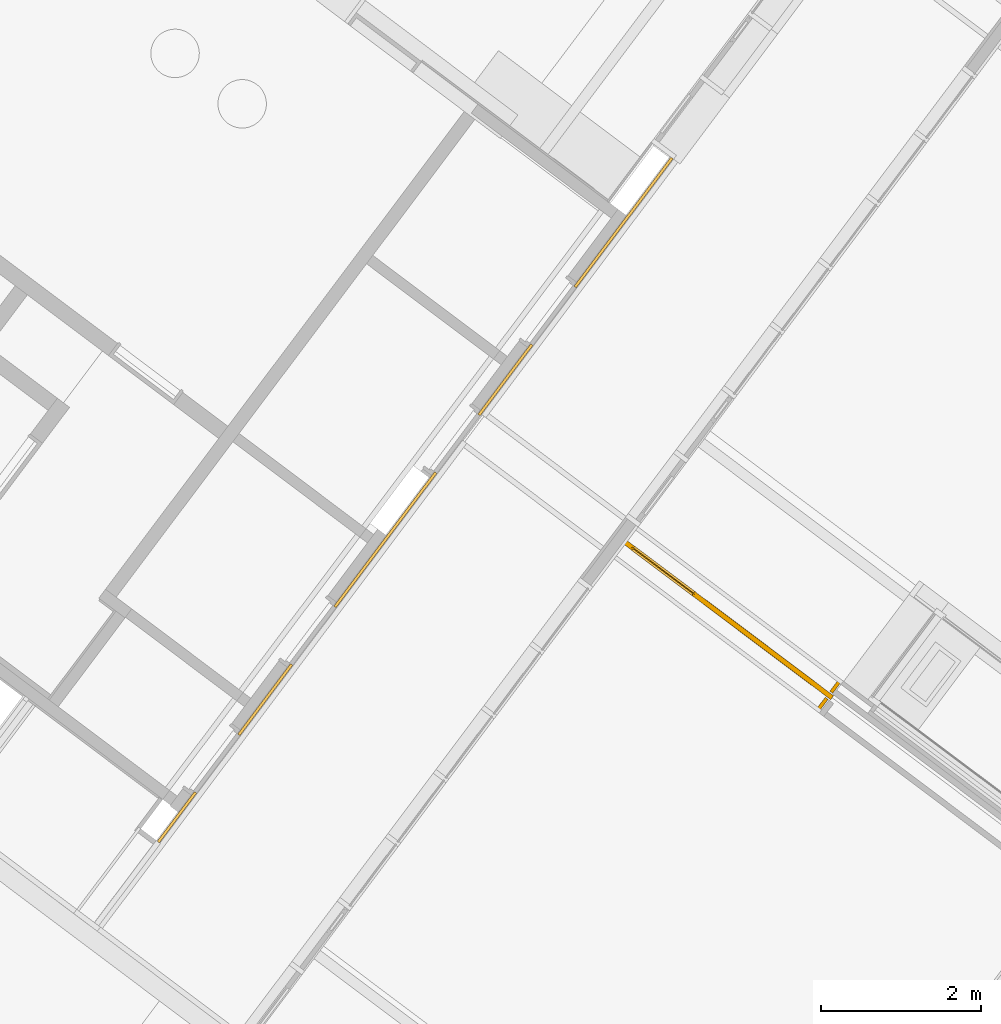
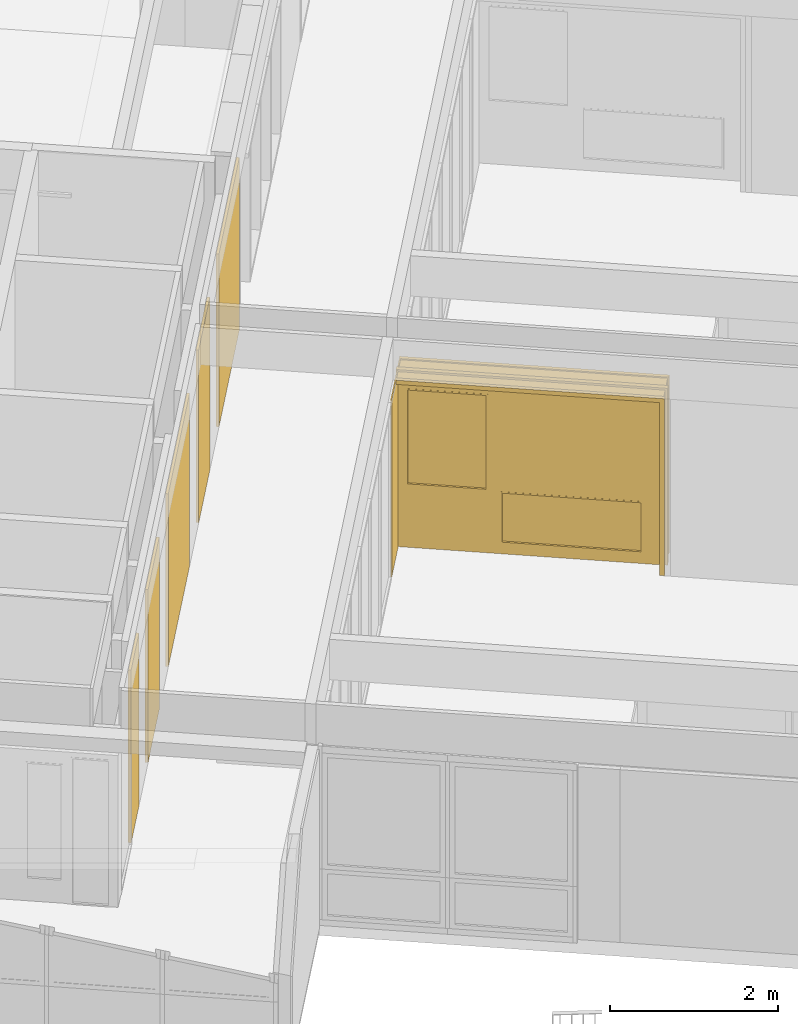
# One storey, part 152 of 243: 1 curtain wall, 1 door, 1 element without a shape of its own.
"""IFC2X3 building model written with IfcOpenShell, lengths in metres."""

from ifc_helpers import new_model, entity, si_unit, converted_unit, derived_unit, direction, frame, frame_2d, origin, origin_2d_with_axis, place, context, subcontext, project, spatial, rectangle, extrude, faceted_brep, source, transform, mapped, material, material_list, layer, layer_set, type_object, type_shapes, element, aggregate, save


model = new_model("IFC2X3")

# Units and contexts
model_context = context("Model", 3, precision=1e-05, world=origin(), true_north=direction((6.123031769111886e-17, 1.0)))
body_context = subcontext(model_context, "Body", "Model", "MODEL_VIEW")
ifc_project = project(units=[si_unit("LENGTHUNIT", "METRE"), si_unit("AREAUNIT", "SQUARE_METRE"), si_unit("VOLUMEUNIT", "CUBIC_METRE"), converted_unit("PLANEANGLEUNIT", "DEGREE", entity("IfcRatioMeasure", 0.017453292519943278), si_unit("PLANEANGLEUNIT", "RADIAN"), dimensions=[0, 0, 0, 0, 0, 0, 0]), si_unit("MASSUNIT", "GRAM", prefix="KILO"), derived_unit("MASSDENSITYUNIT", [(si_unit("MASSUNIT", "GRAM", prefix="KILO"), 1), (si_unit("LENGTHUNIT", "METRE"), -3)]), derived_unit("IONCONCENTRATIONUNIT", [(si_unit("MASSUNIT", "GRAM", prefix="KILO"), 1), (si_unit("LENGTHUNIT", "METRE"), -3)]), derived_unit("MOMENTOFINERTIAUNIT", [(si_unit("LENGTHUNIT", "METRE"), 4)]), si_unit("TIMEUNIT", "SECOND"), si_unit("FREQUENCYUNIT", "HERTZ"), si_unit("THERMODYNAMICTEMPERATUREUNIT", "DEGREE_CELSIUS"), derived_unit("THERMALTRANSMITTANCEUNIT", [(si_unit("MASSUNIT", "GRAM", prefix="KILO"), 1), (si_unit("THERMODYNAMICTEMPERATUREUNIT", "KELVIN"), -1), (si_unit("TIMEUNIT", "SECOND"), -3)]), derived_unit("THERMALCONDUCTANCEUNIT", [(si_unit("MASSUNIT", "GRAM", prefix="KILO"), 1), (si_unit("THERMODYNAMICTEMPERATUREUNIT", "KELVIN"), -1), (si_unit("TIMEUNIT", "SECOND"), -3), (si_unit("LENGTHUNIT", "METRE"), 1)]), derived_unit("VOLUMETRICFLOWRATEUNIT", [(si_unit("LENGTHUNIT", "METRE"), 3), (si_unit("TIMEUNIT", "SECOND"), -1)]), derived_unit("MASSFLOWRATEUNIT", [(si_unit("MASSUNIT", "GRAM", prefix="KILO"), 1), (si_unit("TIMEUNIT", "SECOND"), -1)]), derived_unit("ROTATIONALFREQUENCYUNIT", [(si_unit("TIMEUNIT", "SECOND"), -1)]), si_unit("ELECTRICCURRENTUNIT", "AMPERE"), si_unit("ELECTRICVOLTAGEUNIT", "VOLT"), si_unit("POWERUNIT", "WATT"), si_unit("FORCEUNIT", "NEWTON", prefix="KILO"), si_unit("ILLUMINANCEUNIT", "LUX"), si_unit("LUMINOUSFLUXUNIT", "LUMEN"), si_unit("LUMINOUSINTENSITYUNIT", "CANDELA"), derived_unit("USERDEFINED", [(si_unit("MASSUNIT", "GRAM", prefix="KILO"), -1), (si_unit("LENGTHUNIT", "METRE"), -2), (si_unit("TIMEUNIT", "SECOND"), 3), (si_unit("LUMINOUSFLUXUNIT", "LUMEN"), 1)]), derived_unit("USERDEFINED", [(si_unit("MASSUNIT", "GRAM", prefix="KILO"), 1), (si_unit("TIMEUNIT", "SECOND"), -3), (si_unit("LENGTHUNIT", "METRE"), 3), (si_unit("ELECTRICCURRENTUNIT", "AMPERE"), -2)]), derived_unit("SOUNDPOWERUNIT", [(si_unit("MASSUNIT", "GRAM", prefix="KILO"), 1), (si_unit("TIMEUNIT", "SECOND"), -3), (si_unit("LENGTHUNIT", "METRE"), 2)]), derived_unit("SOUNDPRESSUREUNIT", [(si_unit("MASSUNIT", "GRAM", prefix="KILO"), 1), (si_unit("LENGTHUNIT", "METRE"), -1), (si_unit("TIMEUNIT", "SECOND"), -2)]), derived_unit("LINEARVELOCITYUNIT", [(si_unit("LENGTHUNIT", "METRE"), 1), (si_unit("TIMEUNIT", "SECOND"), -1)]), si_unit("PRESSUREUNIT", "PASCAL"), derived_unit("USERDEFINED", [(si_unit("MASSUNIT", "GRAM", prefix="KILO"), 1), (si_unit("LENGTHUNIT", "METRE"), -2), (si_unit("TIMEUNIT", "SECOND"), -2)]), derived_unit("LINEARFORCEUNIT", [(si_unit("MASSUNIT", "GRAM", prefix="KILO"), 1), (si_unit("TIMEUNIT", "SECOND"), -2)]), derived_unit("PLANARFORCEUNIT", [(si_unit("MASSUNIT", "GRAM", prefix="KILO"), 1), (si_unit("LENGTHUNIT", "METRE"), -1), (si_unit("TIMEUNIT", "SECOND"), -2)]), derived_unit("SPECIFICHEATCAPACITYUNIT", [(si_unit("THERMODYNAMICTEMPERATUREUNIT", "KELVIN"), -1), (si_unit("LENGTHUNIT", "METRE"), 2), (si_unit("TIMEUNIT", "SECOND"), -2)]), derived_unit("HEATINGVALUEUNIT", [(si_unit("LENGTHUNIT", "METRE"), 2), (si_unit("TIMEUNIT", "SECOND"), -2)]), derived_unit("VAPORPERMEABILITYUNIT", [(si_unit("LENGTHUNIT", "METRE"), -1), (si_unit("TIMEUNIT", "SECOND"), 1)]), derived_unit("DYNAMICVISCOSITYUNIT", [(si_unit("MASSUNIT", "GRAM", prefix="KILO"), 1), (si_unit("TIMEUNIT", "SECOND"), -1), (si_unit("LENGTHUNIT", "METRE"), -1)]), derived_unit("THERMALEXPANSIONCOEFFICIENTUNIT", [(si_unit("THERMODYNAMICTEMPERATUREUNIT", "KELVIN"), -1)]), derived_unit("MODULUSOFELASTICITYUNIT", [(si_unit("MASSUNIT", "GRAM", prefix="KILO"), 1), (si_unit("LENGTHUNIT", "METRE"), -1), (si_unit("TIMEUNIT", "SECOND"), -2)]), derived_unit("ISOTHERMALMOISTURECAPACITYUNIT", [(si_unit("LENGTHUNIT", "METRE"), 3), (si_unit("MASSUNIT", "GRAM", prefix="KILO"), -1)]), derived_unit("MOISTUREDIFFUSIVITYUNIT", [(si_unit("TIMEUNIT", "SECOND"), -1), (si_unit("LENGTHUNIT", "METRE"), 2)])], contexts=[model_context])

# Site, building, storey
site_placement = place(None, frame((0.0, 0.0, 235.0), z_axis=(0.0, 0.0, 1.0), x_axis=(-0.7996477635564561, 0.6004693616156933, 0.0)))
site = spatial("IfcSite", under=ifc_project, at=site_placement, Name="Default", CompositionType="ELEMENT")
building_placement = place(site_placement, origin())
building = spatial("IfcBuilding", under=site, at=building_placement, CompositionType="ELEMENT")
storey_placement = place(building_placement, origin())
storey = spatial("IfcBuildingStorey", under=building, at=storey_placement, Name="P0- Escola", CompositionType="ELEMENT", Elevation=0.0)

# Door
ifc_material_1 = material(Name="_Vidre")
ifc_material_2 = material(Name="_Fusta massisa- T1")
ifc_material_list = material_list([ifc_material_1, ifc_material_2])
door_style = type_object("IfcDoorStyle", Name="EnvaMobil_AulaInfantil_F1:EnvaMobil_AulaInfantil_F1", ConstructionType="NOTDEFINED", OperationType="NOTDEFINED", ParameterTakesPrecedence=False, Sizeable=False, material=ifc_material_list)
shared_shape = source(origin(), body_context, "Body", "Brep", [
    faceted_brep([(3.1170004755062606, -0.006004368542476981, 2.294999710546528), (2.1470002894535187, -0.006004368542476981, 2.2949997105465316), (2.1470002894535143, -0.0060043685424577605, 0.9050002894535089), (3.117000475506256, -0.0060043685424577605, 0.9050002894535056), (3.1170004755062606, 0.0059999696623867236, 2.2949997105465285), (3.117000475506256, 0.005999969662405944, 0.9050002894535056), (2.1470002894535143, 0.005999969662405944, 0.9050002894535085), (2.1470002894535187, 0.0059999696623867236, 2.2949997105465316)], [[[0, 1, 2, 3]], [[4, 5, 6, 7]], [[1, 0, 4, 7]], [[2, 1, 7, 6]], [[3, 2, 6, 5]], [[0, 3, 5, 4]]]),
    faceted_brep([(3.122000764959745, -0.0060043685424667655, 2.2999999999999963), (3.1220007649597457, -0.03200436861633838, 2.2999999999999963), (3.1220007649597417, -0.03200436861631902, 0.8999999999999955), (3.1220007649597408, -0.0060043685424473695, 0.8999999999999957), (3.1020007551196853, -0.032004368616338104, 2.279999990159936), (3.102000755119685, -0.006004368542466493, 2.279999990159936), (3.1020007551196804, -0.006004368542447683, 0.9200000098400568), (3.102000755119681, -0.03200436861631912, 0.9200000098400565), (2.142000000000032, -0.03200436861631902, 0.8999999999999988), (2.142000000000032, -0.0060043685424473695, 0.899999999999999), (2.162000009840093, -0.006004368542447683, 0.9200000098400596), (2.162000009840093, -0.03200436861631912, 0.9200000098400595), (2.1420000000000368, -0.03200436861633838, 2.2999999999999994), (2.1420000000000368, -0.006004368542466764, 2.3), (2.1620000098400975, -0.006004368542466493, 2.279999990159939), (2.1620000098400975, -0.032004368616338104, 2.279999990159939)], [[[0, 1, 2, 3]], [[4, 5, 6, 7]], [[3, 2, 8, 9]], [[7, 6, 10, 11]], [[9, 8, 12, 13]], [[11, 10, 14, 15]], [[7, 11, 15, 4], [1, 12, 8, 2]], [[13, 12, 1, 0]], [[3, 9, 13, 0], [5, 14, 10, 6]], [[15, 14, 5, 4]]], outer=[[True], [True], [True], [True], [True], [True], [False, True], [True], [True, False], [True]]),
    faceted_brep([(3.122000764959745, 0.031995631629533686, 2.2999999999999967), (3.1220007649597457, 0.005999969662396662, 2.2999999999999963), (3.1220007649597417, 0.005999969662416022, 0.8999999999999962), (3.1220007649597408, 0.03199563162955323, 0.8999999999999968), (3.1020007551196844, 0.005999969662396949, 2.2799999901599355), (3.1020007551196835, 0.03199563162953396, 2.2799999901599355), (3.1020007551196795, 0.03199563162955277, 0.9200000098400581), (3.10200075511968, 0.00599996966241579, 0.9200000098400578), (2.1420000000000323, 0.005999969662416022, 0.8999999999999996), (2.1420000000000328, 0.03199563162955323, 0.9), (2.162000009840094, 0.03199563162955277, 0.9200000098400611), (2.162000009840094, 0.00599996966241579, 0.9200000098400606), (2.142000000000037, 0.005999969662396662, 2.3), (2.142000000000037, 0.031995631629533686, 2.3000000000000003), (2.1620000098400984, 0.03199563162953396, 2.2799999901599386), (2.1620000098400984, 0.00599996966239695, 2.279999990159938)], [[[0, 1, 2, 3]], [[4, 5, 6, 7]], [[3, 2, 8, 9]], [[7, 6, 10, 11]], [[9, 8, 12, 13]], [[11, 10, 14, 15]], [[13, 12, 1, 0]], [[3, 9, 13, 0], [5, 14, 10, 6]], [[15, 14, 5, 4]], [[1, 12, 8, 2], [7, 11, 15, 4]]]),
    faceted_brep([(1.9869997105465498, -0.006004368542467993, 0.8949997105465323), (0.2970002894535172, -0.006004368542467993, 0.8949997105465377), (0.2970002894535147, -0.0060043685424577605, 0.15500028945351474), (1.9869997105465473, -0.0060043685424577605, 0.15500028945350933), (1.9869997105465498, 0.005999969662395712, 0.8949997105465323), (1.9869997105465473, 0.005999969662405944, 0.15500028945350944), (0.2970002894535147, 0.005999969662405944, 0.155000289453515), (0.2970002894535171, 0.005999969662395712, 0.8949997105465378)], [[[0, 1, 2, 3]], [[4, 5, 6, 7]], [[1, 0, 4, 7]], [[2, 1, 7, 6]], [[3, 2, 6, 5]], [[0, 3, 5, 4]]]),
    faceted_brep([(1.992000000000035, -0.006004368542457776, 0.9), (1.9920000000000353, -0.032004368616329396, 0.8999999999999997), (1.9920000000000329, -0.03200436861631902, 0.1499999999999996), (1.9920000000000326, -0.006004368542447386, 0.14999999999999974), (1.9719999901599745, -0.03200436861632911, 0.879999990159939), (1.9719999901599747, -0.0060043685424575, 0.8799999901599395), (1.9719999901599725, -0.006004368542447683, 0.17000000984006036), (1.9719999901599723, -0.0320043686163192, 0.17000000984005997), (0.2920000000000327, -0.03200436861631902, 0.15000000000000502), (0.29200000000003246, -0.006004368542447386, 0.1500000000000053), (0.3120000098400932, -0.006004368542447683, 0.17000000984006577), (0.3120000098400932, -0.0320043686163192, 0.17000000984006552), (0.2920000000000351, -0.032004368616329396, 0.9000000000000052), (0.2920000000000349, -0.006004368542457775, 0.9000000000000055), (0.3120000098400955, -0.006004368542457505, 0.879999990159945), (0.3120000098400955, -0.03200436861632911, 0.8799999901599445)], [[[0, 1, 2, 3]], [[4, 5, 6, 7]], [[3, 2, 8, 9]], [[7, 6, 10, 11]], [[9, 8, 12, 13]], [[11, 10, 14, 15]], [[7, 11, 15, 4], [1, 12, 8, 2]], [[13, 12, 1, 0]], [[3, 9, 13, 0], [5, 14, 10, 6]], [[15, 14, 5, 4]]], outer=[[True], [True], [True], [True], [True], [True], [False, True], [True], [True, False], [True]]),
    faceted_brep([(1.992000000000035, 0.03199563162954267, 0.9000000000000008), (1.9920000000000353, 0.005999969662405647, 0.9000000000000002), (1.9920000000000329, 0.005999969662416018, 0.15000000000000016), (1.9920000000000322, 0.03199563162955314, 0.15000000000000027), (1.9719999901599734, 0.005999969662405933, 0.8799999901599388), (1.9719999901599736, 0.03199563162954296, 0.8799999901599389), (1.9719999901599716, 0.03199563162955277, 0.170000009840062), (1.9719999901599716, 0.00599996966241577, 0.17000000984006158), (0.2920000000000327, 0.005999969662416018, 0.15000000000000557), (0.2920000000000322, 0.03199563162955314, 0.15000000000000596), (0.3120000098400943, 0.031995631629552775, 0.17000000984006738), (0.3120000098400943, 0.00599996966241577, 0.17000000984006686), (0.2920000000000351, 0.005999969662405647, 0.9000000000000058), (0.29200000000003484, 0.03199563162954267, 0.9000000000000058), (0.3120000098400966, 0.03199563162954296, 0.8799999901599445), (0.3120000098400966, 0.005999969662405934, 0.879999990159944)], [[[0, 1, 2, 3]], [[4, 5, 6, 7]], [[3, 2, 8, 9]], [[7, 6, 10, 11]], [[9, 8, 12, 13]], [[11, 10, 14, 15]], [[13, 12, 1, 0]], [[3, 9, 13, 0], [5, 14, 10, 6]], [[15, 14, 5, 4]], [[1, 12, 8, 2], [7, 11, 15, 4]]]),
    faceted_brep([(3.2420000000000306, 0.022981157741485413, 2.5649999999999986), (3.242000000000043, 0.029981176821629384, 2.5649999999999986), (-0.007999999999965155, 0.029981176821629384, 2.5649999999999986), (-0.007999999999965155, 0.022981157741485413, 2.5649999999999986), (3.2420000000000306, 0.022981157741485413, 0.0), (-0.007999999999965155, 0.022981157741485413, 0.0), (-0.007999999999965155, 0.029981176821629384, 0.0), (3.242000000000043, 0.029981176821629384, 0.0), (3.122000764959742, 0.029981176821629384, 0.8999999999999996), (3.122000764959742, 0.029981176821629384, 2.3000000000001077), (2.142000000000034, 0.029981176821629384, 2.3000000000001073), (2.1420000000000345, 0.029981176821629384, 0.900000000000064), (1.9920000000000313, 0.029981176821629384, 0.900000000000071), (0.2920000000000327, 0.029981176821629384, 0.900000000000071), (0.2920000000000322, 0.029981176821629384, 0.1500000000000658), (1.9920000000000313, 0.029981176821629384, 0.15000000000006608), (3.122000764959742, 0.022981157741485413, 2.3000000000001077), (3.122000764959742, 0.022981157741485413, 0.8999999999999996), (2.142000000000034, 0.022981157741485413, 0.900000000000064), (2.142000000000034, 0.022981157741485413, 2.3000000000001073), (0.2920000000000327, 0.022981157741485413, 0.900000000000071), (1.9920000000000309, 0.022981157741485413, 0.900000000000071), (1.9920000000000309, 0.022981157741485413, 0.1500000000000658), (0.2920000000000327, 0.022981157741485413, 0.1500000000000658)], [[[0, 1, 2, 3]], [[4, 5, 6, 7]], [[1, 0, 4, 7]], [[2, 1, 7, 6], [8, 9, 10, 11], [12, 13, 14, 15]], [[3, 2, 6, 5]], [[0, 3, 5, 4], [16, 17, 18, 19], [20, 21, 22, 23]], [[8, 17, 16, 9]], [[9, 16, 19, 10]], [[10, 19, 18, 11]], [[17, 8, 11, 18]], [[12, 21, 20, 13]], [[13, 20, 23, 14]], [[14, 23, 22, 15]], [[21, 12, 15, 22]]]),
    faceted_brep([(3.2420000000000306, 0.022981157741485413, 2.5649999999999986), (-0.007999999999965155, 0.022981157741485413, 2.5649999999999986), (-0.007999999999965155, -0.02298110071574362, 2.5649999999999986), (3.242000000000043, -0.02298110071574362, 2.5649999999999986), (3.2420000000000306, 0.022981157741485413, 0.0), (3.242000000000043, -0.02298110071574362, 0.0), (-0.007999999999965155, -0.02298110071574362, 0.0), (-0.007999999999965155, 0.022981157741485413, 0.0), (3.122000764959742, 0.022981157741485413, 0.8999999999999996), (3.122000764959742, 0.022981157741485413, 2.3000000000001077), (2.142000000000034, 0.022981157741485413, 2.3000000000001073), (2.142000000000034, 0.022981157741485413, 0.900000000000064), (1.9920000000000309, 0.022981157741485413, 0.900000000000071), (0.2920000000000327, 0.022981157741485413, 0.900000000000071), (0.2920000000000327, 0.022981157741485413, 0.1500000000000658), (1.9920000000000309, 0.022981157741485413, 0.1500000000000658), (3.122000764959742, -0.02298110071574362, 2.3000000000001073), (3.122000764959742, -0.02298110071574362, 0.899999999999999), (2.142000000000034, -0.02298110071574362, 0.9000000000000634), (2.142000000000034, -0.02298110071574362, 2.300000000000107), (0.2920000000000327, -0.02298110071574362, 0.9000000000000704), (1.9920000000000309, -0.02298110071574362, 0.9000000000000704), (1.9920000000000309, -0.02298110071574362, 0.15000000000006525), (0.2920000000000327, -0.02298110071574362, 0.15000000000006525)], [[[0, 1, 2, 3]], [[4, 5, 6, 7]], [[1, 0, 4, 7], [8, 9, 10, 11], [12, 13, 14, 15]], [[2, 1, 7, 6]], [[3, 2, 6, 5], [16, 17, 18, 19], [20, 21, 22, 23]], [[0, 3, 5, 4]], [[8, 17, 16, 9]], [[9, 16, 19, 10]], [[10, 19, 18, 11]], [[17, 8, 11, 18]], [[12, 21, 20, 13]], [[13, 20, 23, 14]], [[14, 23, 22, 15]], [[21, 12, 15, 22]]]),
    faceted_brep([(3.242000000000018, -0.029981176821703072, 2.5649999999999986), (3.242000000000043, -0.022981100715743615, 2.5649999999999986), (-0.007999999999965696, -0.02298110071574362, 2.5649999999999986), (-0.007999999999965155, -0.029981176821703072, 2.5649999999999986), (3.242000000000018, -0.029981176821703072, 0.0), (-0.007999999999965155, -0.029981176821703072, 0.0), (-0.007999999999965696, -0.02298110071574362, 0.0), (3.242000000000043, -0.022981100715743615, 0.0), (3.122000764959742, -0.022981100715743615, 0.899999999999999), (3.122000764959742, -0.022981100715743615, 2.3000000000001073), (2.142000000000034, -0.022981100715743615, 2.300000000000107), (2.1420000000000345, -0.022981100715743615, 0.9000000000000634), (1.9920000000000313, -0.022981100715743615, 0.9000000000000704), (0.2920000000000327, -0.02298110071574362, 0.9000000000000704), (0.2920000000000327, -0.02298110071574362, 0.15000000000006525), (1.9920000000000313, -0.022981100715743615, 0.15000000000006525), (3.122000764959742, -0.029981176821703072, 2.300000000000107), (3.122000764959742, -0.029981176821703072, 0.8999999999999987), (2.142000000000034, -0.029981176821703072, 0.9000000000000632), (2.142000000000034, -0.029981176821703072, 2.3000000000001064), (0.2920000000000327, -0.029981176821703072, 0.9000000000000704), (1.9920000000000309, -0.029981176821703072, 0.9000000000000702), (1.9920000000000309, -0.029981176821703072, 0.15000000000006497), (0.2920000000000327, -0.029981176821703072, 0.15000000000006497)], [[[0, 1, 2, 3]], [[4, 5, 6, 7]], [[1, 0, 4, 7]], [[2, 1, 7, 6], [8, 9, 10, 11], [12, 13, 14, 15]], [[3, 2, 6, 5]], [[0, 3, 5, 4], [16, 17, 18, 19], [20, 21, 22, 23]], [[8, 17, 16, 9]], [[9, 16, 19, 10]], [[10, 19, 18, 11]], [[17, 8, 11, 18]], [[12, 21, 20, 13]], [[13, 20, 23, 14]], [[14, 23, 22, 15]], [[21, 12, 15, 22]]]),
    faceted_brep([(3.2310000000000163, -0.04799999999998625, 2.5649999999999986), (3.215000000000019, -0.04799999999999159, 2.5649999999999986), (3.215000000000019, -0.250000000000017, 2.5649999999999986), (3.2310000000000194, -0.250000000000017, 2.5649999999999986), (3.2310000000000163, -0.04799999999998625, 0.0), (3.215000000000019, -0.04799999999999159, 0.0), (3.215000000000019, -0.250000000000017, 0.0), (3.2310000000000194, -0.250000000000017, 0.0)], [[[0, 1, 2, 3]], [[1, 0, 4, 5]], [[2, 1, 5, 6]], [[3, 2, 6, 7]], [[0, 3, 7, 4]], [[4, 7, 6, 5]]]),
    faceted_brep([(3.2310000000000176, 0.04799999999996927, 0.0), (3.2150000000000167, 0.047999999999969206, 0.0), (3.2150000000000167, 0.6679999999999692, 0.0), (3.2310000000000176, 0.6679999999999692, 0.0), (3.2310000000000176, 0.6679999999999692, 2.5649999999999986), (3.2310000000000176, 0.04799999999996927, 2.5649999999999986), (3.2150000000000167, 0.6679999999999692, 2.5649999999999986), (3.2150000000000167, 0.04799999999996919, 2.5649999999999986)], [[[0, 1, 2, 3]], [[4, 5, 0, 3]], [[6, 4, 3, 2]], [[7, 6, 2, 1]], [[5, 7, 1, 0]], [[5, 4, 6, 7]]]),
    faceted_brep([(0.0040000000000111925, -0.2500000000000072, 0.0), (0.004000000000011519, -0.2000000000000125, 0.0), (0.020000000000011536, -0.2000000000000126, 0.0), (0.020000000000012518, -0.047999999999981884, 0.0), (0.06400000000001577, -0.047999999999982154, 0.0), (0.06400000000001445, -0.25000000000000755, 0.0), (3.215000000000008, -0.2500000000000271, 2.5649999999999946), (3.215000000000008, -0.2500000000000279, 2.504999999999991), (3.215000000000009, -0.04800000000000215, 2.504999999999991), (3.215000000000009, -0.048000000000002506, 2.5489999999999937), (3.2150000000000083, -0.20000000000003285, 2.5489999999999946), (3.2150000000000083, -0.20000000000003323, 2.5649999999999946), (0.004000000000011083, -0.2500000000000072, 2.5649999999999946), (0.004000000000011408, -0.2000000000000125, 2.5649999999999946), (0.020000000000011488, -0.2000000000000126, 2.5489999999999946), (0.02000000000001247, -0.047999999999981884, 2.5489999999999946), (0.06400000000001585, -0.047999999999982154, 2.504999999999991), (0.06400000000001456, -0.25000000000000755, 2.504999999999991)], [[[0, 1, 2, 3, 4, 5]], [[6, 7, 8, 9, 10, 11]], [[1, 0, 12, 13]], [[2, 1, 13, 11, 10, 14]], [[3, 2, 14, 15]], [[4, 3, 15, 9, 8, 16]], [[5, 4, 16, 17]], [[0, 5, 17, 7, 6, 12]], [[13, 12, 6, 11]], [[15, 14, 10, 9]], [[17, 16, 8, 7]]]),
    faceted_brep([(0.06400000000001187, 0.24999999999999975, 0.0), (0.004000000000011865, 0.2500000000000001, 0.0), (0.004000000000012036, 0.2500000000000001, 2.564999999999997), (3.215000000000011, 0.24999999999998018, 2.564999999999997), (3.2150000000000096, 0.24999999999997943, 2.504999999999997), (0.06400000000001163, 0.24999999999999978, 2.504999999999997), (0.06400000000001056, 0.04799999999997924, 0.0), (0.06400000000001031, 0.04799999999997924, 2.5049999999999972), (0.02000000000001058, 0.04799999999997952, 0.0), (3.2150000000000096, 0.04799999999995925, 2.5049999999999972), (3.2150000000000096, 0.04799999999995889, 2.5489999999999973), (0.020000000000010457, 0.04799999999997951, 2.5489999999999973), (0.02000000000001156, 0.19999999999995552, 0.0), (0.020000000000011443, 0.19999999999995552, 2.5489999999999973), (0.0040000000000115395, 0.19999999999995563, 0.0), (3.215000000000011, 0.19999999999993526, 2.548999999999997), (3.2150000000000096, 0.1999999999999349, 2.564999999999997), (0.004000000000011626, 0.19999999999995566, 2.564999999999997)], [[[0, 1, 2, 3, 4, 5]], [[6, 0, 5, 7]], [[8, 6, 7, 9, 10, 11]], [[12, 8, 11, 13]], [[14, 12, 13, 15, 16, 17]], [[1, 14, 17, 2]], [[7, 5, 4, 9]], [[13, 11, 10, 15]], [[2, 17, 16, 3]], [[3, 16, 15, 10, 9, 4]], [[1, 0, 6, 8, 12, 14]]]),
])
type_shapes(door_style, [shared_shape])
door_placement = place(storey_placement, frame((10.026750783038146, -26.190191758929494, 0.0)))
element("IfcDoor", 1, at=door_placement, inside=storey, type_object=door_style, material=ifc_material_list, Name="EnvaMobil_AulaInfantil_F1:EnvaMobil_AulaInfantil_F1", ObjectType="EnvaMobil_AulaInfantil_F1:EnvaMobil_AulaInfantil_F1", OverallHeight=2.5650000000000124, OverallWidth=3.257999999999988, context=body_context, shape_type="MappedRepresentation", body=[
    mapped(shared_shape, transform((0.0, 0.0, 0.0), scale=1.0)),
])

# Curtain walls
curtain_wall_type_1 = type_object("IfcCurtainWallType", Name="Muro cortina:MC- INT- a4- 5cm", PredefinedType="NOTDEFINED")
curtain_wall_1_placement = place(storey_placement, origin())
curtain_wall_1 = element("IfcCurtainWall", 2, at=curtain_wall_1_placement, inside=storey, type_object=curtain_wall_type_1, Name="Muro cortina:MC- INT- a4- 5cm", ObjectType="Muro cortina:MC- INT- a4- 5cm")
ifc_material_3 = material(Name="_Fusta massisa- T1-  REV- PAV")
ifc_layer_1 = layer(ifc_material_3, 0.015)
ifc_material_4 = material(Name="_Genèric perfils, muntants, rastrells")
ifc_layer_2 = layer(ifc_material_4, 0.02)
ifc_layer_set = layer_set([ifc_layer_1, ifc_layer_2], Name="Muro básico:REV- Fusta- T1- 3,5 cm")
curtain_wall_type_2 = type_object("IfcCurtainWallType", Name="Muro básico:REV- Fusta- T1- 3,5 cm", PredefinedType="NOTDEFINED", material=ifc_layer_set)
curtain_wall_2_placement = place(storey_placement, frame((15.670147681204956, -30.38269085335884, 0.0), z_axis=(0.0, 0.0, 1.0), x_axis=(0.0, 1.0, 0.0)))
curtain_wall_2 = element("IfcCurtainWall", 3, at=curtain_wall_2_placement, type_object=curtain_wall_type_2, Name="Muro básico:REV- Fusta- T1- 3,5 cm", ObjectType="Muro básico:REV- Fusta- T1- 3,5 cm", context=body_context, shape_type="SweptSolid", body=[
    extrude(rectangle(XDim=2.017499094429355, YDim=0.03500000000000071, at=frame_2d((4.3298697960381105e-15, 0.0), x_axis=(1.0, 0.0))), frame((1.008749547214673, 0.0, 0.0)), (0.0, 0.0, 1.0), 2.5050000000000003),
    extrude(rectangle(XDim=0.775000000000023, YDim=0.035000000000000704, at=frame_2d((0.0, 1.0842021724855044e-15), x_axis=(1.0, 0.0))), frame((10.304999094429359, 0.0, 0.0), z_axis=(0.0, 0.0, 1.0), x_axis=(-1.0, 0.0, 0.0)), (0.0, 0.0, 1.0), 2.5050000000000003),
    extrude(rectangle(XDim=1.0999999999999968, YDim=0.035000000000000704, at=frame_2d((-2.1649348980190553e-15, 1.0842021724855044e-15), x_axis=(1.0, 0.0))), frame((8.467499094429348, 0.0, 0.0), z_axis=(0.0, 0.0, 1.0), x_axis=(-1.0, 0.0, 0.0)), (0.0, 0.0, 1.0), 2.5050000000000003),
    extrude(rectangle(XDim=2.099999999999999, YDim=0.03500000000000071, at=origin_2d_with_axis()), frame((5.967499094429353, 0.0, 0.0)), (0.0, 0.0, 1.0), 2.5050000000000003),
    extrude(rectangle(XDim=1.1000000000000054, YDim=0.03500000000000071, at=frame_2d((-4.3298697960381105e-15, -1.0842021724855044e-15), x_axis=(1.0, 0.0))), frame((3.4674990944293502, 0.0, 0.0), z_axis=(0.0, 0.0, 1.0), x_axis=(-1.0, 0.0, 0.0)), (0.0, 0.0, 1.0), 2.5050000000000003),
])
aggregate(curtain_wall_1, [curtain_wall_2])

save(model, "model.ifc")
